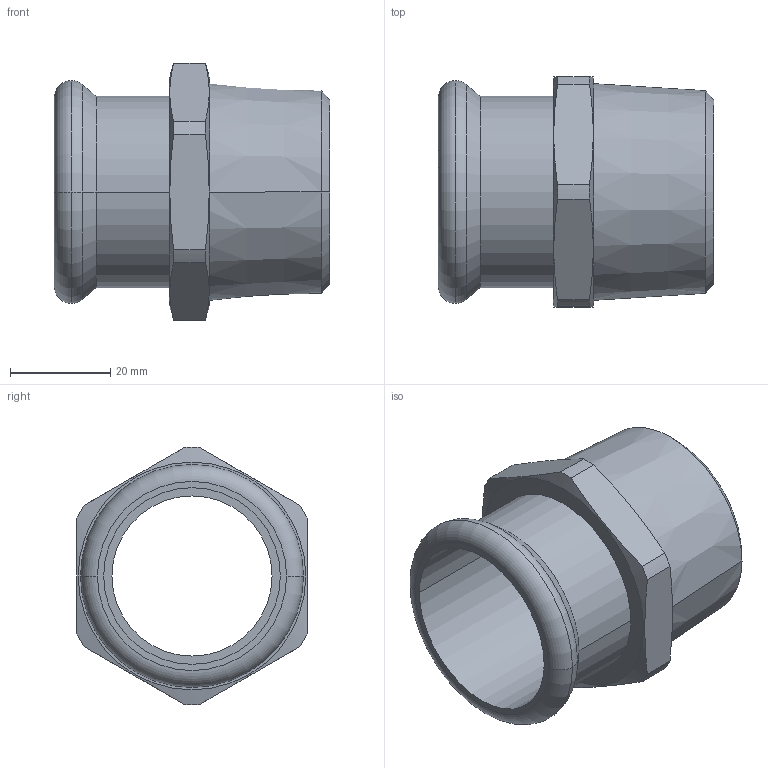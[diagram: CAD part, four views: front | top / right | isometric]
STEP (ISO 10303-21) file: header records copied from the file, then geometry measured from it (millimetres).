
FILE_DESCRIPTION(('CoCreate Modeling STEP Export'),'2;1');
FILE_NAME('C1405 35xR1 1-4.stp','2014-11-07T14:21:55',(''),(''),'CoCreate Modeling STEP processor for AP214 (Solid Model)','CoCreate Modeling 17.00A 17-Jun-2010 (C) Parametric Technology GmbH','');
FILE_SCHEMA(('AUTOMOTIVE_DESIGN { 1 0 10303 214 1 1 1 1 }'));
Length unit declared in the file: millimetre
Products named in the file (2): C1405_35xR1_1-4
Assembly tree (1 placements, depth 2):
  C1405_35xR1_1-4
    C1405_35xR1_1-4
Bounding box: 55 x 46 x 51.49 mm (x, y, z)
Volume: 25923.7 mm3; surface area: 15139.5 mm2
Topology: 1 solids, 1 shells, 40 faces, 94 edges, 60 vertices
Faces by surface type: cylinder 14, plane 12, cone 10, torus 4
Entity records: 1750 total; most frequent: CARTESIAN_POINT 883, ORIENTED_EDGE 188, DIRECTION 144, EDGE_CURVE 94, VERTEX_POINT 60, AXIS2_PLACEMENT_3D 57, EDGE_LOOP 46, FACE_OUTER_BOUND 40
